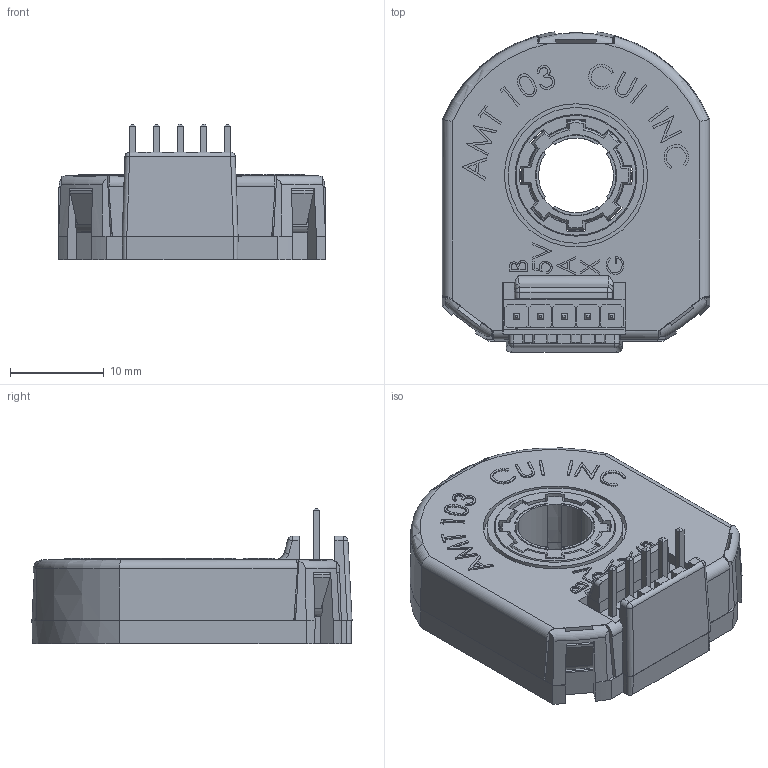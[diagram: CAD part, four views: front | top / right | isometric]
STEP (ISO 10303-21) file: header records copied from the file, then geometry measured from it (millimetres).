
FILE_DESCRIPTION (( 'STEP AP214' ), '1' );
FILE_NAME ('CUI_AMT103-2048-N8000-S.step', '2018-11-21T06:10:26', ( '' ), ( '' ), 'SwSTEP 2.0', 'SolidWorks 2018', '' );
FILE_SCHEMA (( 'AUTOMOTIVE_DESIGN' ));
Length unit declared in the file: millimetre
Products named in the file (10): AMT-103-Base-REV-K; Rotor-board-REV F; Receiver-board; AMT10X-Shaft-Adaptor-REV-E; AMT-Hub-Bottom-REV-B; AMT-Hub-Top-REV-D1; AMT-Sleeve-REV-D_8 mm; CUI_AMT103-2048-N8000-S; Transmitter-board AMT10_AMT-103; AMT-103-Top-Cover-REV-H
Assembly tree (9 placements, depth 2):
  CUI_AMT103-2048-N8000-S
    AMT-Sleeve-REV-D_8 mm
    AMT-Hub-Top-REV-D1
    AMT-Hub-Bottom-REV-B
    AMT10X-Shaft-Adaptor-REV-E
    Receiver-board
    Rotor-board-REV F
    Transmitter-board AMT10_AMT-103
    AMT-103-Base-REV-K
    AMT-103-Top-Cover-REV-H
Bounding box: 28.6 x 34.21 x 14.49 mm (x, y, z)
Volume: 4733.6 mm3; surface area: 10736.7 mm2
Topology: 25 solids, 25 shells, 1525 faces, 4182 edges, 2725 vertices
Faces by surface type: plane 916, cylinder 310, cone 178, bspline 97, torus 20, sphere 4
Entity records: 61783 total; most frequent: CARTESIAN_POINT 16417, ORIENTED_EDGE 8364, DIRECTION 7382, EDGE_CURVE 4182, VERTEX_POINT 2725, VECTOR 2522, LINE 2522, AXIS2_PLACEMENT_3D 2430
